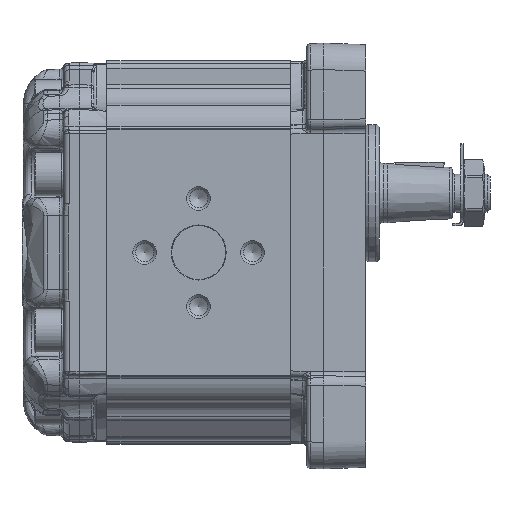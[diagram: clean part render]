
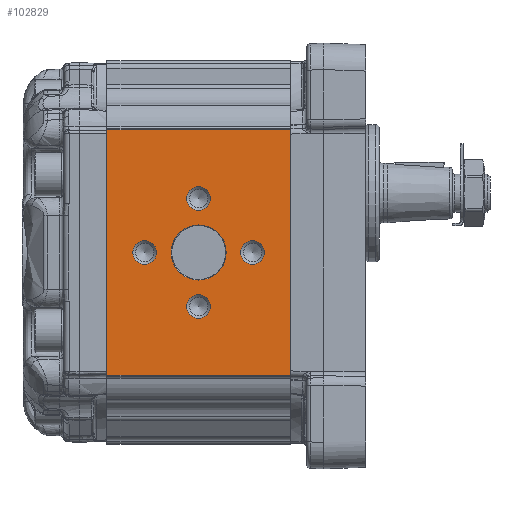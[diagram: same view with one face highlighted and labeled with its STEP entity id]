
A CAD part, left-side view. The second image highlights one B-rep face of the part: STEP entity #102829.
In plain terms, the highlighted planar face has unit normal (-1, 0, 0).
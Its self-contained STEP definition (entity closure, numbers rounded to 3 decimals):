
#5824=PLANE('',#108898);
#8495=LINE('',#162897,#12702);
#8506=LINE('',#162982,#12713);
#8544=LINE('',#163090,#12751);
#8545=LINE('',#163091,#12752);
#12702=VECTOR('',#122338,1000.);
#12713=VECTOR('',#122413,1000.);
#12751=VECTOR('',#122539,1000.);
#12752=VECTOR('',#122540,1000.);
#27139=ORIENTED_EDGE('',*,*,#44948,.T.);
#27140=ORIENTED_EDGE('',*,*,#44949,.T.);
#27141=ORIENTED_EDGE('',*,*,#44950,.T.);
#27142=ORIENTED_EDGE('',*,*,#44951,.T.);
#27143=ORIENTED_EDGE('',*,*,#44952,.T.);
#27144=ORIENTED_EDGE('',*,*,#44852,.F.);
#27145=ORIENTED_EDGE('',*,*,#44953,.T.);
#27146=ORIENTED_EDGE('',*,*,#44894,.F.);
#27147=ORIENTED_EDGE('',*,*,#44954,.T.);
#44852=EDGE_CURVE('',#54622,#54623,#8495,.T.);
#44894=EDGE_CURVE('',#54664,#54665,#8506,.T.);
#44948=EDGE_CURVE('',#54686,#54686,#60483,.F.);
#44949=EDGE_CURVE('',#54687,#54687,#60484,.F.);
#44950=EDGE_CURVE('',#54688,#54688,#60485,.F.);
#44951=EDGE_CURVE('',#54689,#54689,#60486,.F.);
#44952=EDGE_CURVE('',#54690,#54690,#60487,.F.);
#44953=EDGE_CURVE('',#54622,#54665,#8544,.F.);
#44954=EDGE_CURVE('',#54664,#54623,#8545,.F.);
#54622=VERTEX_POINT('',#162896);
#54623=VERTEX_POINT('',#162898);
#54664=VERTEX_POINT('',#162981);
#54665=VERTEX_POINT('',#162983);
#54686=VERTEX_POINT('',#163081);
#54687=VERTEX_POINT('',#163083);
#54688=VERTEX_POINT('',#163085);
#54689=VERTEX_POINT('',#163087);
#54690=VERTEX_POINT('',#163089);
#60483=CIRCLE('',#108899,4.4);
#60484=CIRCLE('',#108900,4.4);
#60485=CIRCLE('',#108901,4.4);
#60486=CIRCLE('',#108902,4.4);
#60487=CIRCLE('',#108903,10.2);
#64507=EDGE_LOOP('',(#27139));
#64508=EDGE_LOOP('',(#27140));
#64509=EDGE_LOOP('',(#27141));
#64510=EDGE_LOOP('',(#27142));
#64511=EDGE_LOOP('',(#27143));
#64512=EDGE_LOOP('',(#27144,#27145,#27146,#27147));
#68947=FACE_BOUND('',#64507,.T.);
#68948=FACE_BOUND('',#64508,.T.);
#68949=FACE_BOUND('',#64509,.T.);
#68950=FACE_BOUND('',#64510,.T.);
#68951=FACE_BOUND('',#64511,.T.);
#68952=FACE_BOUND('',#64512,.T.);
#102829=ADVANCED_FACE('',(#68947,#68948,#68949,#68950,#68951,#68952),#5824,
 .T.);
#108898=AXIS2_PLACEMENT_3D('',#163079,#122527,#122528);
#108899=AXIS2_PLACEMENT_3D('',#163080,#122529,#122530);
#108900=AXIS2_PLACEMENT_3D('',#163082,#122531,#122532);
#108901=AXIS2_PLACEMENT_3D('',#163084,#122533,#122534);
#108902=AXIS2_PLACEMENT_3D('',#163086,#122535,#122536);
#108903=AXIS2_PLACEMENT_3D('',#163088,#122537,#122538);
#122338=DIRECTION('',(0.,0.,1.));
#122413=DIRECTION('',(0.,0.,-1.));
#122527=DIRECTION('',(-1.,0.,0.));
#122528=DIRECTION('',(0.,0.,-1.));
#122529=DIRECTION('',(-1.,0.,0.));
#122530=DIRECTION('',(0.,0.,-1.));
#122531=DIRECTION('',(-1.,0.,0.));
#122532=DIRECTION('',(0.,0.,-1.));
#122533=DIRECTION('',(-1.,0.,0.));
#122534=DIRECTION('',(0.,0.,-1.));
#122535=DIRECTION('',(-1.,0.,0.));
#122536=DIRECTION('',(0.,0.,-1.));
#122537=DIRECTION('',(-1.,0.,0.));
#122538=DIRECTION('',(0.,0.,-1.));
#122539=DIRECTION('',(0.,1.,0.));
#122540=DIRECTION('',(0.,-1.,0.));
#162896=CARTESIAN_POINT('',(-57.5,68.,-45.5));
#162897=CARTESIAN_POINT('',(-57.5,68.,-84.819));
#162898=CARTESIAN_POINT('',(-57.5,68.,45.5));
#162981=CARTESIAN_POINT('',(-57.5,0.,45.5));
#162982=CARTESIAN_POINT('',(-57.5,0.,-44.978));
#162983=CARTESIAN_POINT('',(-57.5,0.,-45.5));
#163079=CARTESIAN_POINT('',(-57.5,-154.175,-84.819));
#163080=CARTESIAN_POINT('',(-57.5,34.,20.));
#163081=CARTESIAN_POINT('',(-57.5,34.,15.6));
#163082=CARTESIAN_POINT('',(-57.5,54.,0.));
#163083=CARTESIAN_POINT('',(-57.5,54.,-4.4));
#163084=CARTESIAN_POINT('',(-57.5,34.,-20.));
#163085=CARTESIAN_POINT('',(-57.5,34.,-24.4));
#163086=CARTESIAN_POINT('',(-57.5,14.,0.));
#163087=CARTESIAN_POINT('',(-57.5,14.,-4.4));
#163088=CARTESIAN_POINT('',(-57.5,34.,0.));
#163089=CARTESIAN_POINT('',(-57.5,34.,-10.2));
#163090=CARTESIAN_POINT('',(-57.5,-154.175,-45.5));
#163091=CARTESIAN_POINT('',(-57.5,-154.175,45.5));
